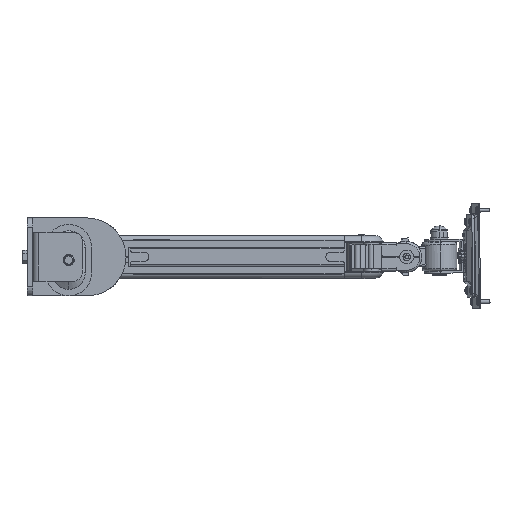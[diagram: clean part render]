
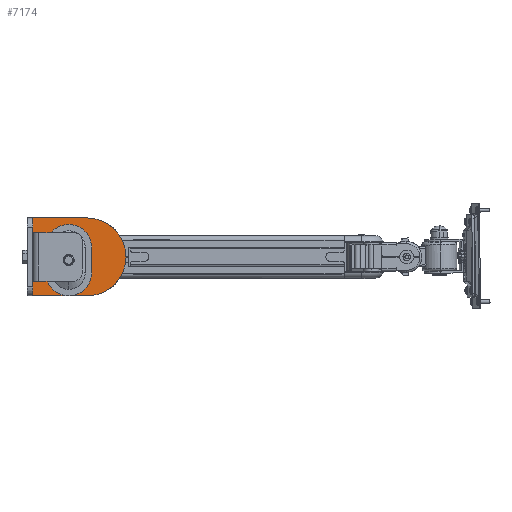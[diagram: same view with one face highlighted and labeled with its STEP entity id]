
A CAD part, front view. The second image highlights one B-rep face of the part: STEP entity #7174.
In plain terms, the highlighted planar face has unit normal (0, -1, 0) as drawn and (0, 1, 0) by its records, which use the part's own axes.
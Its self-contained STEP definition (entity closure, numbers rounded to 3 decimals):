
#7112 = VERTEX_POINT ( 'NONE', #87881 ) ;
#7114 = EDGE_CURVE ( 'NONE', #7177, #7112, #87880, .T. ) ;
#7117 = VERTEX_POINT ( 'NONE', #87872 ) ;
#7119 = EDGE_CURVE ( 'NONE', #7120, #7117, #87871, .T. ) ;
#7120 = VERTEX_POINT ( 'NONE', #87867 ) ;
#7152 = ORIENTED_EDGE ( 'NONE', *, *, #7179, .T. ) ;
#7153 = ORIENTED_EDGE ( 'NONE', *, *, #7114, .T. ) ;
#7154 = ORIENTED_EDGE ( 'NONE', *, *, #7172, .T. ) ;
#7172 = EDGE_CURVE ( 'NONE', #7112, #7120, #87983, .T. ) ;
#7174 = ADVANCED_FACE ( 'NONE', ( #87978 ), #87977, .F. ) ;
#7175 = EDGE_LOOP ( 'NONE', ( #7176, #7152, #7153, #7154 ) ) ;
#7176 = ORIENTED_EDGE ( 'NONE', *, *, #7119, .T. ) ;
#7177 = VERTEX_POINT ( 'NONE', #87972 ) ;
#7179 = EDGE_CURVE ( 'NONE', #7117, #7177, #87971, .T. ) ;
#87867 = CARTESIAN_POINT ( 'NONE',  ( 0., 2., -42.5 ) ) ;
#87868 = DIRECTION ( 'NONE',  ( -1., 0., 0. ) ) ;
#87869 = VECTOR ( 'NONE', #87868, 1000. ) ;
#87870 = CARTESIAN_POINT ( 'NONE',  ( -59., 2., -42.5 ) ) ;
#87871 = LINE ( 'NONE', #87870, #87869 ) ;
#87872 = CARTESIAN_POINT ( 'NONE',  ( -59., 2., -42.5 ) ) ;
#87877 = DIRECTION ( 'NONE',  ( 1., 0., 0. ) ) ;
#87878 = VECTOR ( 'NONE', #87877, 1000. ) ;
#87879 = CARTESIAN_POINT ( 'NONE',  ( -59., 2., 42.5 ) ) ;
#87880 = LINE ( 'NONE', #87879, #87878 ) ;
#87881 = CARTESIAN_POINT ( 'NONE',  ( 0., 2., 42.5 ) ) ;
#87968 = DIRECTION ( 'NONE',  ( 0., 0., 1. ) ) ;
#87969 = VECTOR ( 'NONE', #87968, 1000. ) ;
#87970 = CARTESIAN_POINT ( 'NONE',  ( -59., 2., -42.5 ) ) ;
#87971 = LINE ( 'NONE', #87970, #87969 ) ;
#87972 = CARTESIAN_POINT ( 'NONE',  ( -59., 2., 42.5 ) ) ;
#87973 = DIRECTION ( 'NONE',  ( 0., 0., -1. ) ) ;
#87974 = DIRECTION ( 'NONE',  ( 0., -1., 0. ) ) ;
#87975 = CARTESIAN_POINT ( 'NONE',  ( 0., 2., 0. ) ) ;
#87976 = AXIS2_PLACEMENT_3D ( 'NONE', #87975, #87974, #87973 ) ;
#87977 = PLANE ( 'NONE',  #87976 ) ;
#87978 = FACE_OUTER_BOUND ( 'NONE', #7175, .T. ) ;
#87979 = DIRECTION ( 'NONE',  ( 0., 0., -1. ) ) ;
#87980 = DIRECTION ( 'NONE',  ( 0., 1., 0. ) ) ;
#87981 = CARTESIAN_POINT ( 'NONE',  ( 0., 2., 0. ) ) ;
#87982 = AXIS2_PLACEMENT_3D ( 'NONE', #87981, #87980, #87979 ) ;
#87983 = CIRCLE ( 'NONE', #87982, 42.5 ) ;
